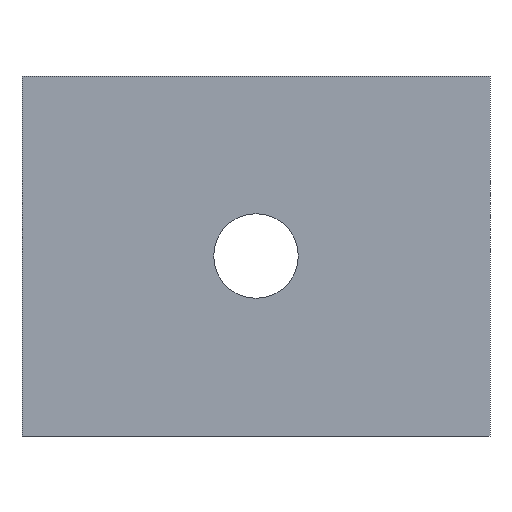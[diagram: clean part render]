
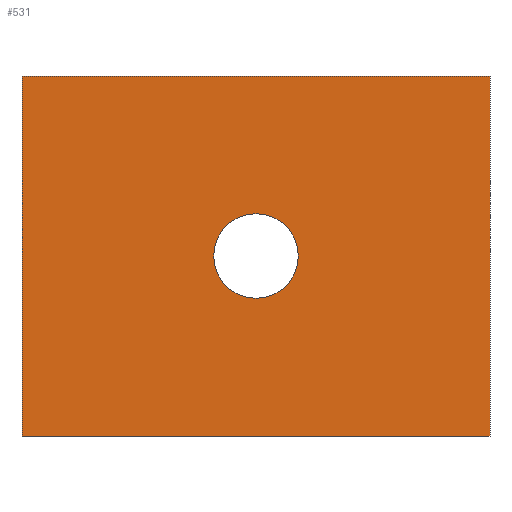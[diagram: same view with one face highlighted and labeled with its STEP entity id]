
A CAD part, front view. The second image highlights one B-rep face of the part: STEP entity #531.
In plain terms, the highlighted planar face has unit normal (0, -1, 0).
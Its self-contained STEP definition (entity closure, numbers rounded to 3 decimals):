
#26 = PLANE ( 'NONE',  #302 ) ;
#102 = VECTOR ( 'NONE', #539, 1000. ) ;
#118 = DIRECTION ( 'NONE',  ( 0., 1., 0. ) ) ;
#127 = DIRECTION ( 'NONE',  ( 1., 0., 0. ) ) ;
#142 = DIRECTION ( 'NONE',  ( 1., 0., 0. ) ) ;
#149 = EDGE_CURVE ( 'NONE', #256, #524, #183, .T. ) ;
#155 = DIRECTION ( 'NONE',  ( 0., 0., -1. ) ) ;
#183 = LINE ( 'NONE', #532, #365 ) ;
#206 = DIRECTION ( 'NONE',  ( 0., 1., 0. ) ) ;
#213 = LINE ( 'NONE', #513, #530 ) ;
#222 = ORIENTED_EDGE ( 'NONE', *, *, #317, .T. ) ;
#244 = EDGE_LOOP ( 'NONE', ( #222 ) ) ;
#246 = VERTEX_POINT ( 'NONE', #343 ) ;
#248 = EDGE_LOOP ( 'NONE', ( #446, #367, #322, #562 ) ) ;
#254 = CARTESIAN_POINT ( 'NONE',  ( 0., 0., 10. ) ) ;
#256 = VERTEX_POINT ( 'NONE', #321 ) ;
#262 = EDGE_CURVE ( 'NONE', #524, #534, #459, .T. ) ;
#290 = CARTESIAN_POINT ( 'NONE',  ( 0., 0., 0. ) ) ;
#302 = AXIS2_PLACEMENT_3D ( 'NONE', #254, #206, #337 ) ;
#317 = EDGE_CURVE ( 'NONE', #246, #246, #438, .T. ) ;
#318 = VECTOR ( 'NONE', #155, 1000. ) ;
#321 = CARTESIAN_POINT ( 'NONE',  ( -13., 0., 10. ) ) ;
#322 = ORIENTED_EDGE ( 'NONE', *, *, #149, .F. ) ;
#324 = FACE_BOUND ( 'NONE', #244, .T. ) ;
#337 = DIRECTION ( 'NONE',  ( 0., 0., 1. ) ) ;
#343 = CARTESIAN_POINT ( 'NONE',  ( 0., 0., 2.345 ) ) ;
#365 = VECTOR ( 'NONE', #142, 1000. ) ;
#367 = ORIENTED_EDGE ( 'NONE', *, *, #262, .F. ) ;
#368 = CARTESIAN_POINT ( 'NONE',  ( -13., 0., -10. ) ) ;
#372 = VERTEX_POINT ( 'NONE', #368 ) ;
#382 = FACE_OUTER_BOUND ( 'NONE', #248, .T. ) ;
#409 = CARTESIAN_POINT ( 'NONE',  ( -13., 0., 10. ) ) ;
#422 = CARTESIAN_POINT ( 'NONE',  ( 13., 0., 10. ) ) ;
#438 = CIRCLE ( 'NONE', #514, 2.345 ) ;
#446 = ORIENTED_EDGE ( 'NONE', *, *, #536, .T. ) ;
#454 = LINE ( 'NONE', #409, #102 ) ;
#458 = CARTESIAN_POINT ( 'NONE',  ( 13., 0., -10. ) ) ;
#459 = LINE ( 'NONE', #495, #318 ) ;
#473 = EDGE_CURVE ( 'NONE', #256, #372, #454, .T. ) ;
#495 = CARTESIAN_POINT ( 'NONE',  ( 13., 0., 10. ) ) ;
#512 = DIRECTION ( 'NONE',  ( 0., 0., 1. ) ) ;
#513 = CARTESIAN_POINT ( 'NONE',  ( 0., 0., -10. ) ) ;
#514 = AXIS2_PLACEMENT_3D ( 'NONE', #290, #118, #512 ) ;
#524 = VERTEX_POINT ( 'NONE', #422 ) ;
#530 = VECTOR ( 'NONE', #127, 1000. ) ;
#531 = ADVANCED_FACE ( 'NONE', ( #324, #382 ), #26, .F. ) ;
#532 = CARTESIAN_POINT ( 'NONE',  ( 0., 0., 10. ) ) ;
#534 = VERTEX_POINT ( 'NONE', #458 ) ;
#536 = EDGE_CURVE ( 'NONE', #372, #534, #213, .T. ) ;
#539 = DIRECTION ( 'NONE',  ( 0., 0., -1. ) ) ;
#562 = ORIENTED_EDGE ( 'NONE', *, *, #473, .T. ) ;
